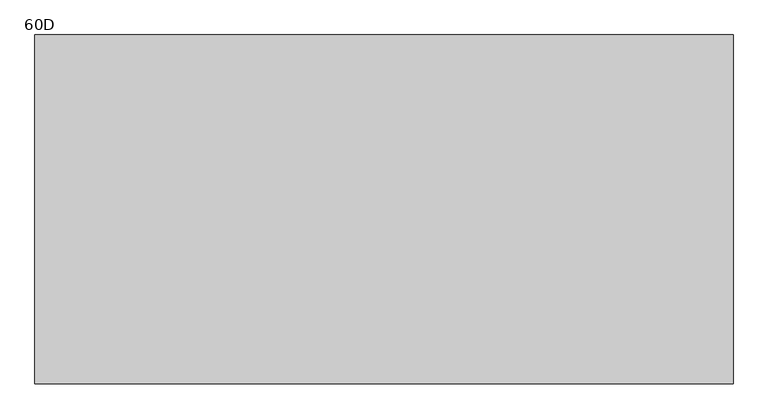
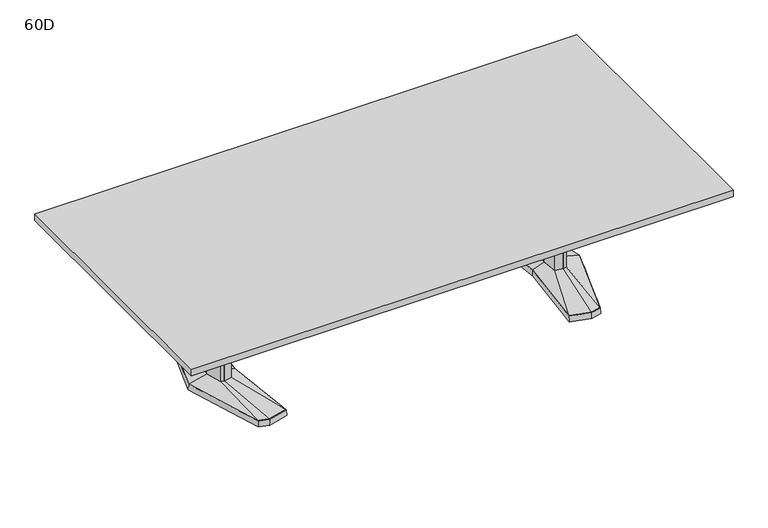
"""IFC4 building model written with IfcOpenShell, lengths in millimetres: furniture geometry, Coalesse_AM_Table_Conference_ETable2_Rectangular_10ft_AluminiumBase : 60D."""

from ifc_helpers import new_model, si_unit, frame, origin, place, context, project, spatial, polyline, outline, extrude, faceted_brep, source, transform, mapped, element, save
from ifc_brep_helpers import plane_surface, spline_surface, advanced_brep


def furniture_60d_662fff53(model_context):
    return source(origin(), model_context, "Body", "SolidModel", [
        faceted_brep([(905.8306835, 455.5848221, 38.1), (796.2531277, 426.2263816, 38.1), (837.4163717, 0.0, 38.1), (796.2531277, -426.2263816, 38.1), (905.8306835, -455.5848221, 38.1), (961.9570396, -440.5478297, 38.1), (1099.2684269, 0.0, 38.1), (961.9570396, 440.5478297, 38.1), (905.8306754, 457.2283104, 3.175), (963.2124472, 441.8549756, 3.175), (1100.93125, 0.0, 3.175), (963.2124472, -441.8549756, 3.175), (905.8306754, -457.2283104, 3.175), (794.54375, -427.4118891, 3.175), (835.8214856, 0.0, 3.175), (794.54375, 427.4118891, 3.175), (909.420115, 428.3273875, 3.175), (804.3718228, 402.1057253, 3.175), (812.490518, 377.985069, 3.175), (913.0095466, 401.0699529, 3.175), (963.5691725, 387.524361, 3.175), (962.7631061, 414.0360954, 3.175), (909.420115, -428.3273875, 3.175), (962.7631061, -414.0360954, 3.175), (963.5691725, -387.524361, 3.175), (913.0095466, -401.0699529, 3.175), (812.490518, -377.985069, 3.175), (804.3718228, -402.1057253, 3.175), (1036.0153621, 0.0, 3.175), (1003.7459611, 120.4193755, 3.175), (955.0987222, 133.471665, 3.175), (875.2180526, 119.4176561, 3.175), (864.0868466, 0.0, 3.175), (875.2180526, -119.4176561, 3.175), (955.0987222, -133.471665, 3.175), (1003.7459611, -120.4193755, 3.175), (909.420115, 428.3273875, 0.0), (962.7631061, 414.0360954, 0.0), (963.5691725, 387.524361, 0.0), (913.0095466, 401.0699529, 0.0), (812.490518, 377.985069, 0.0), (804.3718228, 402.1057253, 0.0), (909.420115, -428.3273875, 0.0), (804.3718228, -402.1057253, 0.0), (812.490518, -377.985069, 0.0), (913.0095466, -401.0699529, 0.0), (963.5691725, -387.524361, 0.0), (962.7631061, -414.0360954, 0.0), (1036.0153621, 0.0, 0.0), (1003.7459611, -120.4193755, 0.0), (955.0987222, -133.471665, 0.0), (875.2180526, -119.4176561, 0.0), (864.0868466, 0.0, 0.0), (875.2180526, 119.4176561, 0.0), (955.0987222, 133.471665, 0.0), (1003.7459611, 120.4193755, 0.0)], [[[0, 1, 2, 3, 4, 5, 6, 7]], [[8, 9, 10, 11, 12, 13, 14, 15], [16, 17, 18, 19, 20, 21], [22, 23, 24, 25, 26, 27], [28, 29, 30, 31, 32, 33, 34, 35]], [[7, 9, 8, 0]], [[6, 10, 9, 7]], [[5, 11, 10, 6]], [[4, 12, 11, 5]], [[3, 13, 12, 4]], [[2, 14, 13, 3]], [[1, 15, 14, 2]], [[0, 8, 15, 1]], [[36, 37, 38, 39, 40, 41]], [[42, 43, 44, 45, 46, 47]], [[48, 49, 50, 51, 52, 53, 54, 55]], [[36, 16, 21, 37]], [[37, 21, 20, 38]], [[38, 20, 19, 39]], [[39, 19, 18, 40]], [[40, 18, 17, 41]], [[41, 17, 16, 36]], [[42, 22, 27, 43]], [[43, 27, 26, 44]], [[44, 26, 25, 45]], [[45, 25, 24, 46]], [[46, 24, 23, 47]], [[47, 23, 22, 42]], [[48, 28, 35, 49]], [[49, 35, 34, 50]], [[50, 34, 33, 51]], [[51, 33, 32, 52]], [[52, 32, 31, 53]], [[53, 31, 30, 54]], [[54, 30, 29, 55]], [[55, 29, 28, 48]]]),
        faceted_brep([(996.5710836, 0.0, 698.5), (972.6358546, 89.3188359, 698.5), (955.7824984, 93.8406728, 698.5), (953.3826511, 94.4845635, 698.5), (910.455146, 86.9320037, 698.5), (902.3520056, 0.0, 698.5), (910.455146, -86.9320037, 698.5), (953.3826511, -94.4845635, 698.5), (955.7824984, -93.8406728, 698.5), (972.6358546, -89.3188359, 698.5), (996.5710836, 0.0, 63.5), (972.6358546, -89.3188359, 63.5), (955.7824984, -93.8406728, 63.5), (953.3826511, -94.4845635, 63.5), (910.455146, -86.9320037, 63.5), (902.3520056, 0.0, 63.5), (910.455146, 86.9320037, 63.5), (953.3826511, 94.4845635, 63.5), (955.7824984, 93.8406728, 63.5), (972.6358546, 89.3188359, 63.5)], [[[0, 1, 2, 3, 4, 5, 6, 7, 8, 9]], [[10, 11, 12, 13, 14, 15, 16, 17, 18, 19]], [[9, 11, 10, 0]], [[8, 12, 11, 9]], [[7, 13, 12, 8]], [[6, 14, 13, 7]], [[5, 15, 14, 6]], [[4, 16, 15, 5]], [[3, 17, 16, 4]], [[2, 18, 17, 3]], [[1, 19, 18, 2]], [[0, 10, 19, 1]]]),
        advanced_brep(
        [(953.3826511, 94.4845635, 63.5), (910.455146, 86.9320037, 63.5), (902.3520056, 0.0, 63.5), (910.455146, -86.9320037, 63.5), (953.3826511, -94.4845635, 63.5), (972.6358546, -89.3188359, 63.5), (996.5710836, 0.0, 63.5), (972.6358546, 89.3188359, 63.5), (905.8306835, 455.5848221, 38.1), (961.9570396, 440.5478297, 38.1), (1099.2684269, 0.0, 38.1), (961.9570396, -440.5478297, 38.1), (905.8306835, -455.5848221, 38.1), (796.2531277, -426.2263816, 38.1), (837.4163717, 0.0, 38.1), (796.2531277, 426.2263816, 38.1)],
        [
            (0, 1),
            (1, 2),
            (2, 3),
            (3, 4),
            (4, 5),
            (5, 6),
            (6, 7),
            (7, 0),
            (8, 9),
            (9, 10),
            (10, 11),
            (11, 12),
            (12, 13),
            (13, 14),
            (14, 15),
            (15, 8),
            (8, 0),
            (7, 9),
            (6, 10),
            (5, 11),
            (4, 12),
            (3, 13),
            (2, 14),
            (1, 15),
        ],
        [
            plane_surface(frame((946.4837991, 0.0, 63.5), z_axis=(0.0, 0.0, 1.0), x_axis=(-0.25884244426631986, -0.9659195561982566, 0.0))),
            plane_surface(frame((908.0958125, 0.0, 38.1), z_axis=(0.0, 0.0, -1.0), x_axis=(-0.25884244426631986, -0.9659195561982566, 0.0))),
            spline_surface(1, 1, [[(905.8306835, 455.5848221, 38.1), (961.9570396, 440.5478297, 38.1)], [(953.3826511, 94.4845635, 63.5), (972.6358546, 89.3188359, 63.5)]], [2, 2], [2, 2], [0.0, 1.0], [0.0, 1.0]),
            spline_surface(1, 1, [[(961.9570396, 440.5478297, 38.1), (1099.2684269, 0.0, 38.1)], [(972.6358546, 89.3188359, 63.5), (996.5710836, 0.0, 63.5)]], [2, 2], [2, 2], [0.0, 1.0], [0.0, 1.0]),
            spline_surface(1, 1, [[(1099.2684269, 0.0, 38.1), (961.9570396, -440.5478297, 38.1)], [(996.5710836, 0.0, 63.5), (972.6358546, -89.3188359, 63.5)]], [2, 2], [2, 2], [0.0, 1.0], [0.0, 1.0]),
            spline_surface(1, 1, [[(961.9570396, -440.5478297, 38.1), (905.8306835, -455.5848221, 38.1)], [(972.6358546, -89.3188359, 63.5), (953.3826511, -94.4845635, 63.5)]], [2, 2], [2, 2], [0.0, 1.0], [0.0, 1.0]),
            spline_surface(1, 1, [[(905.8306835, -455.5848221, 38.1), (796.2531277, -426.2263816, 38.1)], [(953.3826511, -94.4845635, 63.5), (910.455146, -86.9320037, 63.5)]], [2, 2], [2, 2], [0.0, 1.0], [0.0, 1.0]),
            spline_surface(1, 1, [[(796.2531277, -426.2263816, 38.1), (837.4163717, 0.0, 38.1)], [(910.455146, -86.9320037, 63.5), (902.3520056, 0.0, 63.5)]], [2, 2], [2, 2], [0.0, 1.0], [0.0, 1.0]),
            spline_surface(1, 1, [[(837.4163717, 0.0, 38.1), (796.2531277, 426.2263816, 38.1)], [(902.3520056, 0.0, 63.5), (910.455146, 86.9320037, 63.5)]], [2, 2], [2, 2], [0.0, 1.0], [0.0, 1.0]),
            spline_surface(1, 1, [[(796.2531277, 426.2263816, 38.1), (905.8306835, 455.5848221, 38.1)], [(910.455146, 86.9320037, 63.5), (953.3826511, 94.4845635, 63.5)]], [2, 2], [2, 2], [0.0, 1.0], [0.0, 1.0]),
        ],
        [
            (0, [[1, 2, 3, 4, 5, 6, 7, 8]]),
            (1, [[9, 10, 11, 12, 13, 14, 15, 16]]),
            (2, [[17, -8, 18, -9]]),
            (3, [[-18, -7, 19, -10]]),
            (4, [[-19, -6, 20, -11]]),
            (5, [[-20, -5, 21, -12]]),
            (6, [[-21, -4, 22, -13]]),
            (7, [[-22, -3, 23, -14]]),
            (8, [[-23, -2, 24, -15]]),
            (9, [[-24, -1, -17, -16]]),
        ],
    ),
        faceted_brep([(-905.8306835, 455.5848221, 38.1), (-961.9570396, 440.5478297, 38.1), (-1099.2684269, 0.0, 38.1), (-961.9570396, -440.5478297, 38.1), (-905.8306835, -455.5848221, 38.1), (-796.2531277, -426.2263816, 38.1), (-837.4163717, 0.0, 38.1), (-796.2531277, 426.2263816, 38.1), (-905.8306754, 457.2283104, 3.175), (-794.54375, 427.4118891, 3.175), (-835.8214856, 0.0, 3.175), (-794.54375, -427.4118891, 3.175), (-905.8306754, -457.2283104, 3.175), (-963.2124472, -441.8549756, 3.175), (-1100.93125, 0.0, 3.175), (-963.2124472, 441.8549756, 3.175), (-909.420115, 428.3273875, 3.175), (-962.7631061, 414.0360954, 3.175), (-963.5691725, 387.524361, 3.175), (-913.0095466, 401.0699529, 3.175), (-812.490518, 377.985069, 3.175), (-804.3718228, 402.1057253, 3.175), (-909.420115, -428.3273875, 3.175), (-804.3718228, -402.1057253, 3.175), (-812.490518, -377.985069, 3.175), (-913.0095466, -401.0699529, 3.175), (-963.5691725, -387.524361, 3.175), (-962.7631061, -414.0360954, 3.175), (-1036.0153621, 0.0, 3.175), (-1003.7459611, -120.4193755, 3.175), (-955.0987222, -133.471665, 3.175), (-875.2180526, -119.4176561, 3.175), (-864.0868466, 0.0, 3.175), (-875.2180526, 119.4176561, 3.175), (-955.0987222, 133.471665, 3.175), (-1003.7459611, 120.4193755, 3.175), (-909.420115, 428.3273875, 0.0), (-804.3718228, 402.1057253, 0.0), (-812.490518, 377.985069, 0.0), (-913.0095466, 401.0699529, 0.0), (-963.5691725, 387.524361, 0.0), (-962.7631061, 414.0360954, 0.0), (-909.420115, -428.3273875, 0.0), (-962.7631061, -414.0360954, 0.0), (-963.5691725, -387.524361, 0.0), (-913.0095466, -401.0699529, 0.0), (-812.490518, -377.985069, 0.0), (-804.3718228, -402.1057253, 0.0), (-1036.0153621, 0.0, 0.0), (-1003.7459611, 120.4193755, 0.0), (-955.0987222, 133.471665, 0.0), (-875.2180526, 119.4176561, 0.0), (-864.0868466, 0.0, 0.0), (-875.2180526, -119.4176561, 0.0), (-955.0987222, -133.471665, 0.0), (-1003.7459611, -120.4193755, 0.0)], [[[0, 1, 2, 3, 4, 5, 6, 7]], [[8, 9, 10, 11, 12, 13, 14, 15], [16, 17, 18, 19, 20, 21], [22, 23, 24, 25, 26, 27], [28, 29, 30, 31, 32, 33, 34, 35]], [[1, 0, 8, 15]], [[2, 1, 15, 14]], [[3, 2, 14, 13]], [[4, 3, 13, 12]], [[5, 4, 12, 11]], [[6, 5, 11, 10]], [[7, 6, 10, 9]], [[0, 7, 9, 8]], [[36, 37, 38, 39, 40, 41]], [[42, 43, 44, 45, 46, 47]], [[48, 49, 50, 51, 52, 53, 54, 55]], [[36, 41, 17, 16]], [[41, 40, 18, 17]], [[40, 39, 19, 18]], [[39, 38, 20, 19]], [[38, 37, 21, 20]], [[37, 36, 16, 21]], [[42, 47, 23, 22]], [[47, 46, 24, 23]], [[46, 45, 25, 24]], [[45, 44, 26, 25]], [[44, 43, 27, 26]], [[43, 42, 22, 27]], [[48, 55, 29, 28]], [[55, 54, 30, 29]], [[54, 53, 31, 30]], [[53, 52, 32, 31]], [[52, 51, 33, 32]], [[51, 50, 34, 33]], [[50, 49, 35, 34]], [[49, 48, 28, 35]]]),
        faceted_brep([(-996.5710836, 0.0, 698.5), (-972.6358546, -89.3188359, 698.5), (-955.7824984, -93.8406728, 698.5), (-953.3826511, -94.4845635, 698.5), (-910.455146, -86.9320037, 698.5), (-902.3520056, 0.0, 698.5), (-910.455146, 86.9320037, 698.5), (-953.3826511, 94.4845635, 698.5), (-955.7824984, 93.8406728, 698.5), (-972.6358546, 89.3188359, 698.5), (-996.5710836, 0.0, 63.5), (-972.6358546, 89.3188359, 63.5), (-955.7824984, 93.8406728, 63.5), (-953.3826511, 94.4845635, 63.5), (-910.455146, 86.9320037, 63.5), (-902.3520056, 0.0, 63.5), (-910.455146, -86.9320037, 63.5), (-953.3826511, -94.4845635, 63.5), (-955.7824984, -93.8406728, 63.5), (-972.6358546, -89.3188359, 63.5)], [[[0, 1, 2, 3, 4, 5, 6, 7, 8, 9]], [[10, 11, 12, 13, 14, 15, 16, 17, 18, 19]], [[1, 0, 10, 19]], [[2, 1, 19, 18]], [[3, 2, 18, 17]], [[4, 3, 17, 16]], [[5, 4, 16, 15]], [[6, 5, 15, 14]], [[7, 6, 14, 13]], [[8, 7, 13, 12]], [[9, 8, 12, 11]], [[0, 9, 11, 10]]]),
        advanced_brep(
        [(-953.3826511, 94.4845635, 63.5), (-972.6358546, 89.3188359, 63.5), (-996.5710836, 0.0, 63.5), (-972.6358546, -89.3188359, 63.5), (-953.3826511, -94.4845635, 63.5), (-910.455146, -86.9320037, 63.5), (-902.3520056, 0.0, 63.5), (-910.455146, 86.9320037, 63.5), (-905.8306835, 455.5848221, 38.1), (-796.2531277, 426.2263816, 38.1), (-837.4163717, 0.0, 38.1), (-796.2531277, -426.2263816, 38.1), (-905.8306835, -455.5848221, 38.1), (-961.9570396, -440.5478297, 38.1), (-1099.2684269, 0.0, 38.1), (-961.9570396, 440.5478297, 38.1)],
        [
            (0, 1),
            (1, 2),
            (2, 3),
            (3, 4),
            (4, 5),
            (5, 6),
            (6, 7),
            (7, 0),
            (8, 9),
            (9, 10),
            (10, 11),
            (11, 12),
            (12, 13),
            (13, 14),
            (14, 15),
            (15, 8),
            (15, 1),
            (0, 8),
            (14, 2),
            (13, 3),
            (12, 4),
            (11, 5),
            (10, 6),
            (9, 7),
        ],
        [
            plane_surface(frame((-946.4837991, 0.0, 63.5), z_axis=(0.0, 0.0, 1.0), x_axis=(0.25884244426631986, -0.9659195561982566, 0.0))),
            plane_surface(frame((-908.0958125, 0.0, 38.1), z_axis=(0.0, 0.0, -1.0), x_axis=(0.25884244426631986, -0.9659195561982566, 0.0))),
            spline_surface(1, 1, [[(-905.8306835, 455.5848221, 38.1), (-953.3826511, 94.4845635, 63.5)], [(-961.9570396, 440.5478297, 38.1), (-972.6358546, 89.3188359, 63.5)]], [2, 2], [2, 2], [0.0, 1.0], [0.0, 1.0]),
            spline_surface(1, 1, [[(-961.9570396, 440.5478297, 38.1), (-972.6358546, 89.3188359, 63.5)], [(-1099.2684269, 0.0, 38.1), (-996.5710836, 0.0, 63.5)]], [2, 2], [2, 2], [0.0, 1.0], [0.0, 1.0]),
            spline_surface(1, 1, [[(-1099.2684269, 0.0, 38.1), (-996.5710836, 0.0, 63.5)], [(-961.9570396, -440.5478297, 38.1), (-972.6358546, -89.3188359, 63.5)]], [2, 2], [2, 2], [0.0, 1.0], [0.0, 1.0]),
            spline_surface(1, 1, [[(-961.9570396, -440.5478297, 38.1), (-972.6358546, -89.3188359, 63.5)], [(-905.8306835, -455.5848221, 38.1), (-953.3826511, -94.4845635, 63.5)]], [2, 2], [2, 2], [0.0, 1.0], [0.0, 1.0]),
            spline_surface(1, 1, [[(-905.8306835, -455.5848221, 38.1), (-953.3826511, -94.4845635, 63.5)], [(-796.2531277, -426.2263816, 38.1), (-910.455146, -86.9320037, 63.5)]], [2, 2], [2, 2], [0.0, 1.0], [0.0, 1.0]),
            spline_surface(1, 1, [[(-796.2531277, -426.2263816, 38.1), (-910.455146, -86.9320037, 63.5)], [(-837.4163717, 0.0, 38.1), (-902.3520056, 0.0, 63.5)]], [2, 2], [2, 2], [0.0, 1.0], [0.0, 1.0]),
            spline_surface(1, 1, [[(-837.4163717, 0.0, 38.1), (-902.3520056, 0.0, 63.5)], [(-796.2531277, 426.2263816, 38.1), (-910.455146, 86.9320037, 63.5)]], [2, 2], [2, 2], [0.0, 1.0], [0.0, 1.0]),
            spline_surface(1, 1, [[(-796.2531277, 426.2263816, 38.1), (-910.455146, 86.9320037, 63.5)], [(-905.8306835, 455.5848221, 38.1), (-953.3826511, 94.4845635, 63.5)]], [2, 2], [2, 2], [0.0, 1.0], [0.0, 1.0]),
        ],
        [
            (0, [[1, 2, 3, 4, 5, 6, 7, 8]]),
            (1, [[9, 10, 11, 12, 13, 14, 15, 16]]),
            (2, [[-16, 17, -1, 18]]),
            (3, [[-15, 19, -2, -17]]),
            (4, [[-14, 20, -3, -19]]),
            (5, [[-13, 21, -4, -20]]),
            (6, [[-12, 22, -5, -21]]),
            (7, [[-11, 23, -6, -22]]),
            (8, [[-10, 24, -7, -23]]),
            (9, [[-9, -18, -8, -24]]),
        ],
    ),
        extrude(outline(polyline([(96.8375, 698.5), (103.1875, 698.5), (103.1875, 476.25), (-103.1875, 476.25), (-103.1875, 698.5), (-96.8375, 698.5), (-96.8375, 482.6), (96.8375, 482.6), (96.8375, 698.5)])), frame((-902.49375, 0.0, 0.0), z_axis=(1.0, 0.0, 0.0), x_axis=(0.0, 1.0, 0.0)), (0.0, 0.0, 1.0), 1804.9875),
        extrude(outline(polyline([(1524.0, 762.0), (1524.0, -762.0), (-1524.0, -762.0), (-1524.0, 762.0), (1524.0, 762.0)])), frame((0.0, 0.0, 698.5), z_axis=(0.0, 0.0, 1.0), x_axis=(1.0, 0.0, 0.0)), (0.0, 0.0, 1.0), 38.1),
    ])


if __name__ == "__main__":
    model = new_model("IFC4")
    model_context = context("Model", 3, world=origin())
    ifc_project = project(units=[si_unit("LENGTHUNIT", "METRE", prefix="MILLI")], contexts=[model_context])
    site = spatial("IfcSite", under=ifc_project)
    building = spatial("IfcBuilding", under=site)
    placement = place(None, origin())
    furniture_60d_shape = furniture_60d_662fff53(model_context)
    element("IfcFurniture", 1, ObjectType="Coalesse_AM_Table_Conference_ETable2_Rectangular_10ft_AluminiumBase : 60D", at=placement, inside=building, context=model_context, shape_type="MappedRepresentation", body=[
        mapped(furniture_60d_shape, transform((0.0, 0.0, 0.0), x_axis=(1.0, 0.0, 0.0), y_axis=(0.0, 1.0, 0.0), z_axis=(0.0, 0.0, 1.0))),
    ])
    save(model, "model.ifc")
